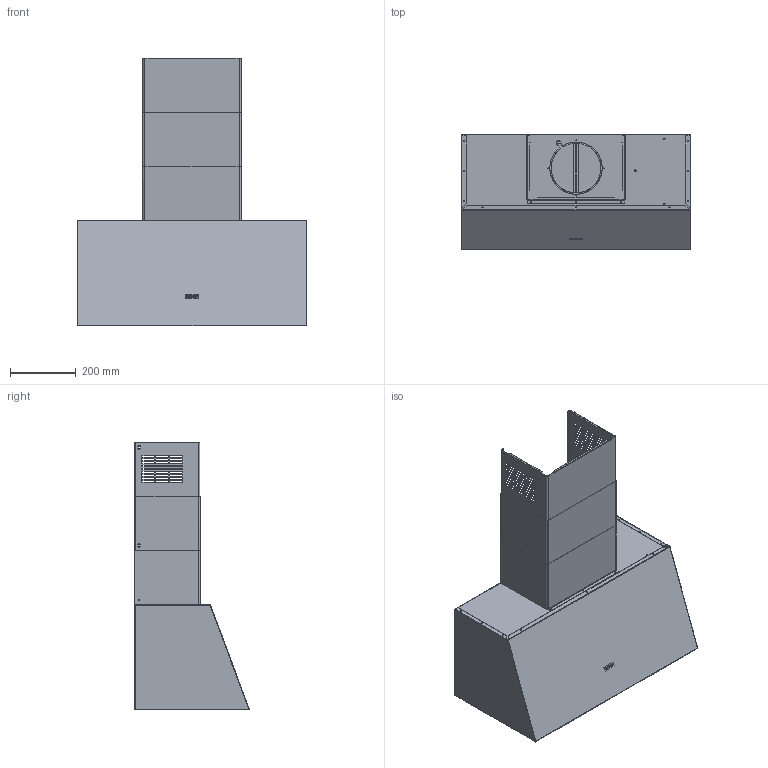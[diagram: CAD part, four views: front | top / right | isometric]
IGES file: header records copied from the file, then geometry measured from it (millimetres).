
Global section: file name: F:\_CONVERSIONE_CAD_2024_2025\03_3D kits new\07_Hoods\Solo Logo Piatto o 3D\3D001_Hoods_Country-Plus_FCO-70\3D001_Hoods_Country-Plus_FCO-70.igs; native system: Rhinoceros ( Jan  9 2024 ); preprocessor: Trout Lake IGES 012 Jan  9 2024; date: 240213.142745; units: millimetre
Bounding box: 698 x 350.8 x 814.25 mm (x, y, z)
Surface area: 3544580 mm2 (no closed solid volume)
Topology: 0 solids, 0 shells, 3238 faces, 19011 edges, 19011 vertices
Faces by surface type: bspline 3238
